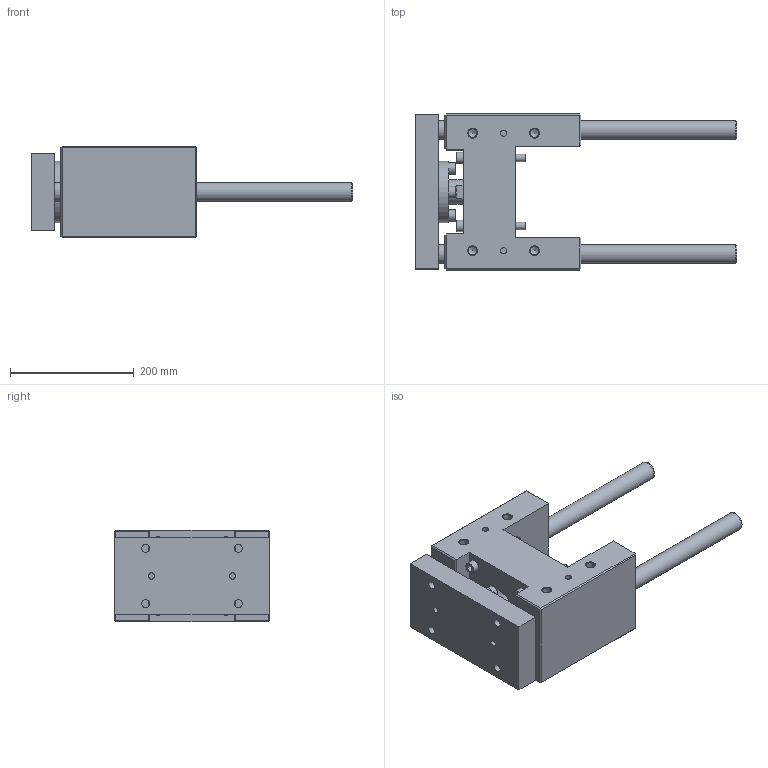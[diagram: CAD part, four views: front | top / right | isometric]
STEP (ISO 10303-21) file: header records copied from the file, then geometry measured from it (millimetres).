
FILE_DESCRIPTION( ( 'STEP AP214' ), '1' );
FILE_NAME( 'U:/Etudes/Top Solid/BIBLIO 3D AVM/TOP/PNEUMATIQUE/GUIDAGES/Type 32 (en H)/R_Renforcée/320R4_30.step', '2005-05-27T08:40:19', ( ' ' ), ( ' ' ), 'XStep 1.0', ' ', ' ' );
FILE_SCHEMA( ( 'automotive_design' ) );
Length unit declared in the file: metre
Products named in the file (2): 1; 2
Bounding box: 520 x 252 x 148 mm (x, y, z)
Volume: 6628588.7 mm3; surface area: 554831.3 mm2
Topology: 2 solids, 7 shells, 238 faces, 524 edges, 339 vertices
Faces by surface type: plane 149, cylinder 68, cone 21
Full cylindrical faces by diameter (mm): 10 x4, 10.106 x4, 12 x16, 13 x12, 13.835 x8, 18 x8, 20 x4, 24.835 x1, 30 x4, 39 x1, 42 x1, 57 x1, 60 x2, 65 x1, 100 x1
Entity records: 7905 total; most frequent: CARTESIAN_POINT 1198, DIRECTION 996, ORIENTED_EDGE 784, EDGE_CURVE 392, EDGE_LOOP 390, AXIS2_PLACEMENT_3D 372, FACE_OUTER_BOUND 306, VERTEX_POINT 302
